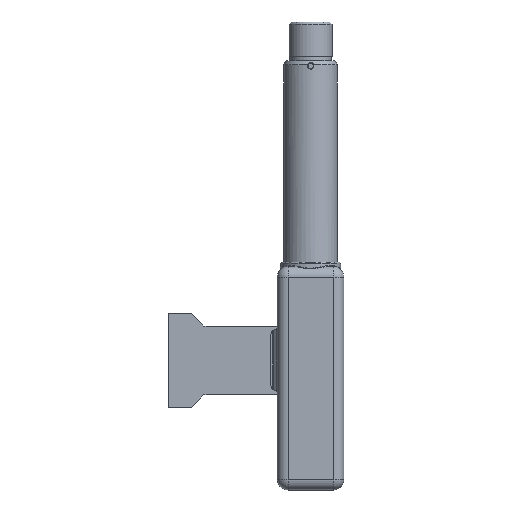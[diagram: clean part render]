
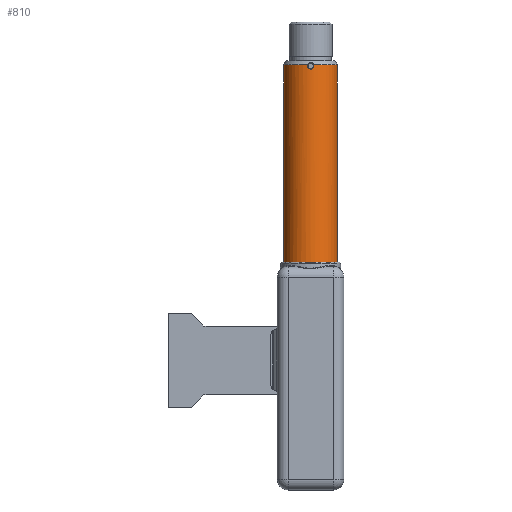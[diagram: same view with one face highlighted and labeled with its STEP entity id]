
A CAD part, front view. The second image highlights one B-rep face of the part: STEP entity #810.
In plain terms, the highlighted cylindrical face has radius 6.25 mm (diameter 12.5 mm), a partial arc.
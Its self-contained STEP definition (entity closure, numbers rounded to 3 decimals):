
#67 = CARTESIAN_POINT ( 'NONE',  ( 0.437, -6.236, -1.82 ) ) ;
#78 = EDGE_CURVE ( 'NONE', #4753, #5561, #3873, .T. ) ;
#117 = ORIENTED_EDGE ( 'NONE', *, *, #8942, .T. ) ;
#174 = AXIS2_PLACEMENT_3D ( 'NONE', #410, #6791, #263 ) ;
#176 = ORIENTED_EDGE ( 'NONE', *, *, #7775, .T. ) ;
#263 = DIRECTION ( 'NONE',  ( 1., 0., 0. ) ) ;
#410 = CARTESIAN_POINT ( 'NONE',  ( 0., 0., -46.89 ) ) ;
#528 = CARTESIAN_POINT ( 'NONE',  ( 0., 0., 11.376 ) ) ;
#537 = CARTESIAN_POINT ( 'NONE',  ( 0., 0., -1. ) ) ;
#764 = CARTESIAN_POINT ( 'NONE',  ( 0.115, -6.25, -1.95 ) ) ;
#810 = ADVANCED_FACE ( 'NONE', ( #3220 ), #8378, .T. ) ;
#968 = ORIENTED_EDGE ( 'NONE', *, *, #78, .T. ) ;
#1064 = CARTESIAN_POINT ( 'NONE',  ( -0.723, -6.208, -1. ) ) ;
#1081 = ORIENTED_EDGE ( 'NONE', *, *, #2190, .T. ) ;
#1342 = CARTESIAN_POINT ( 'NONE',  ( -0.667, -6.215, -1.562 ) ) ;
#1483 = CARTESIAN_POINT ( 'NONE',  ( -0.115, -6.25, -1.95 ) ) ;
#1753 = CARTESIAN_POINT ( 'NONE',  ( 0.723, -6.208, -1. ) ) ;
#1819 = CARTESIAN_POINT ( 'NONE',  ( 6.25, 0., -46.89 ) ) ;
#1868 = LINE ( 'NONE', #4771, #3058 ) ;
#1955 = DIRECTION ( 'NONE',  ( -1., 0., 0. ) ) ;
#2066 = VERTEX_POINT ( 'NONE', #3887 ) ;
#2094 = CARTESIAN_POINT ( 'NONE',  ( 0.715, -6.209, -1.455 ) ) ;
#2147 = VERTEX_POINT ( 'NONE', #1064 ) ;
#2189 = CARTESIAN_POINT ( 'NONE',  ( 0., 0., -1. ) ) ;
#2190 = EDGE_CURVE ( 'NONE', #2066, #4753, #2900, .T. ) ;
#2451 = AXIS2_PLACEMENT_3D ( 'NONE', #537, #6311, #1955 ) ;
#2563 = ORIENTED_EDGE ( 'NONE', *, *, #6970, .T. ) ;
#2804 = ORIENTED_EDGE ( 'NONE', *, *, #3796, .T. ) ;
#2809 = CARTESIAN_POINT ( 'NONE',  ( -0.436, -6.236, -1.821 ) ) ;
#2900 = CIRCLE ( 'NONE', #174, 6.25 ) ;
#2946 = CARTESIAN_POINT ( 'NONE',  ( 0.229, -6.247, -1.923 ) ) ;
#2952 = CARTESIAN_POINT ( 'NONE',  ( -0.754, -6.204, -1.111 ) ) ;
#3058 = VECTOR ( 'NONE', #7666, 1000. ) ;
#3220 = FACE_OUTER_BOUND ( 'NONE', #8411, .T. ) ;
#3241 = CARTESIAN_POINT ( 'NONE',  ( 6.25, 0., -1. ) ) ;
#3430 = B_SPLINE_CURVE_WITH_KNOTS ( 'NONE', 3,
 ( #6456, #3599, #9344, #2094, #6598, #7268, #67, #2946, #764, #3652 ),
 .UNSPECIFIED., .F., .F.,
 ( 4, 2, 2, 2, 4 ),
 ( 0.001, 0.001, 0.002, 0.002, 0.002 ),
 .UNSPECIFIED. ) ;
#3599 = CARTESIAN_POINT ( 'NONE',  ( 0.754, -6.204, -1.111 ) ) ;
#3652 = CARTESIAN_POINT ( 'NONE',  ( 0., -6.25, -1.95 ) ) ;
#3796 = EDGE_CURVE ( 'NONE', #2147, #8563, #7180, .T. ) ;
#3873 = LINE ( 'NONE', #5969, #6542 ) ;
#3887 = CARTESIAN_POINT ( 'NONE',  ( -6.25, 0., -46.89 ) ) ;
#3915 = EDGE_CURVE ( 'NONE', #2066, #8563, #1868, .T. ) ;
#4288 = VERTEX_POINT ( 'NONE', #1753 ) ;
#4376 = CARTESIAN_POINT ( 'NONE',  ( -0.715, -6.209, -1.454 ) ) ;
#4753 = VERTEX_POINT ( 'NONE', #1819 ) ;
#4771 = CARTESIAN_POINT ( 'NONE',  ( -6.25, 0., 11.376 ) ) ;
#4848 = DIRECTION ( 'NONE',  ( 0., 0., 1. ) ) ;
#5561 = VERTEX_POINT ( 'NONE', #3241 ) ;
#5630 = CIRCLE ( 'NONE', #7135, 6.25 ) ;
#5783 = CARTESIAN_POINT ( 'NONE',  ( -0.23, -6.247, -1.923 ) ) ;
#5828 = DIRECTION ( 'NONE',  ( 0., 0., -1. ) ) ;
#5873 = CARTESIAN_POINT ( 'NONE',  ( -0.723, -6.208, -1. ) ) ;
#5969 = CARTESIAN_POINT ( 'NONE',  ( 6.25, 0., 11.376 ) ) ;
#6099 = DIRECTION ( 'NONE',  ( 1., 0., 0. ) ) ;
#6311 = DIRECTION ( 'NONE',  ( 0., 0., -1. ) ) ;
#6456 = CARTESIAN_POINT ( 'NONE',  ( 0.723, -6.208, -1. ) ) ;
#6542 = VECTOR ( 'NONE', #8285, 1000. ) ;
#6598 = CARTESIAN_POINT ( 'NONE',  ( 0.666, -6.215, -1.563 ) ) ;
#6639 = ORIENTED_EDGE ( 'NONE', *, *, #3915, .F. ) ;
#6642 = CARTESIAN_POINT ( 'NONE',  ( -0.527, -6.228, -1.746 ) ) ;
#6691 = B_SPLINE_CURVE_WITH_KNOTS ( 'NONE', 3,
 ( #7188, #1483, #5783, #2809, #6642, #1342, #4376, #7275, #2952, #5873 ),
 .UNSPECIFIED., .F., .F.,
 ( 4, 2, 2, 2, 4 ),
 ( 0.002, 0.003, 0.003, 0.003, 0.004 ),
 .UNSPECIFIED. ) ;
#6791 = DIRECTION ( 'NONE',  ( 0., 0., 1. ) ) ;
#6794 = CARTESIAN_POINT ( 'NONE',  ( -6.25, 0., -1. ) ) ;
#6970 = EDGE_CURVE ( 'NONE', #8316, #2147, #6691, .T. ) ;
#7135 = AXIS2_PLACEMENT_3D ( 'NONE', #2189, #5828, #7186 ) ;
#7180 = CIRCLE ( 'NONE', #2451, 6.25 ) ;
#7186 = DIRECTION ( 'NONE',  ( -1., 0., 0. ) ) ;
#7188 = CARTESIAN_POINT ( 'NONE',  ( 0., -6.25, -1.95 ) ) ;
#7268 = CARTESIAN_POINT ( 'NONE',  ( 0.528, -6.228, -1.745 ) ) ;
#7275 = CARTESIAN_POINT ( 'NONE',  ( -0.758, -6.204, -1.229 ) ) ;
#7609 = CARTESIAN_POINT ( 'NONE',  ( 0., -6.25, -1.95 ) ) ;
#7666 = DIRECTION ( 'NONE',  ( 0., 0., 1. ) ) ;
#7733 = AXIS2_PLACEMENT_3D ( 'NONE', #528, #4848, #6099 ) ;
#7775 = EDGE_CURVE ( 'NONE', #4288, #8316, #3430, .T. ) ;
#8285 = DIRECTION ( 'NONE',  ( 0., 0., 1. ) ) ;
#8316 = VERTEX_POINT ( 'NONE', #7609 ) ;
#8378 = CYLINDRICAL_SURFACE ( 'NONE', #7733, 6.25 ) ;
#8411 = EDGE_LOOP ( 'NONE', ( #6639, #1081, #968, #117, #176, #2563, #2804 ) ) ;
#8563 = VERTEX_POINT ( 'NONE', #6794 ) ;
#8942 = EDGE_CURVE ( 'NONE', #5561, #4288, #5630, .T. ) ;
#9344 = CARTESIAN_POINT ( 'NONE',  ( 0.758, -6.204, -1.229 ) ) ;
